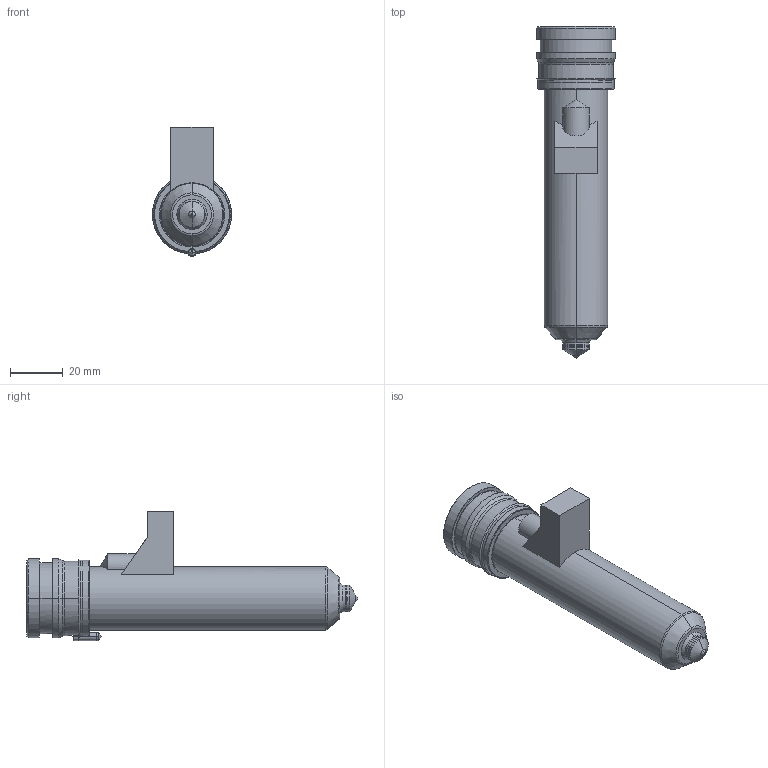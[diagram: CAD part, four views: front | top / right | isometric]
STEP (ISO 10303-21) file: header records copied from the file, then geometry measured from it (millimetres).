
FILE_DESCRIPTION((''),'2;1');
FILE_NAME('MPN-10-29-TS10-106-M','2026-02-05T12:49:20',('UPTIO'),('Thermoplay S.p.A.'),'CREO PARAMETRIC BY PTC INC, 2023494','CREO PARAMETRIC BY PTC INC, 2023494','');
FILE_SCHEMA(('CONFIG_CONTROL_DESIGN','SHAPE_APPEARANCE_LAYERS_GROUPS'));
Length unit declared in the file: millimetre
Products named in the file (1): MPN-10-29-TS10-106-M
Bounding box: 30 x 126 x 49 mm (x, y, z)
Volume: 40152.7 mm3; surface area: 41101.6 mm2
Topology: 3 solids, 5 shells, 542 faces, 1383 edges, 843 vertices
Faces by surface type: cylinder 177, plane 148, bspline 72, torus 67, cone 64, sphere 10, extrusion 4
Entity records: 27131 total; most frequent: CARTESIAN_POINT 11355, ORIENTED_EDGE 2748, DIRECTION 2578, EDGE_CURVE 1374, AXIS2_PLACEMENT_3D 1023, VERTEX_POINT 843, EDGE_LOOP 571, CIRCLE 556
